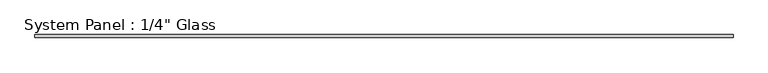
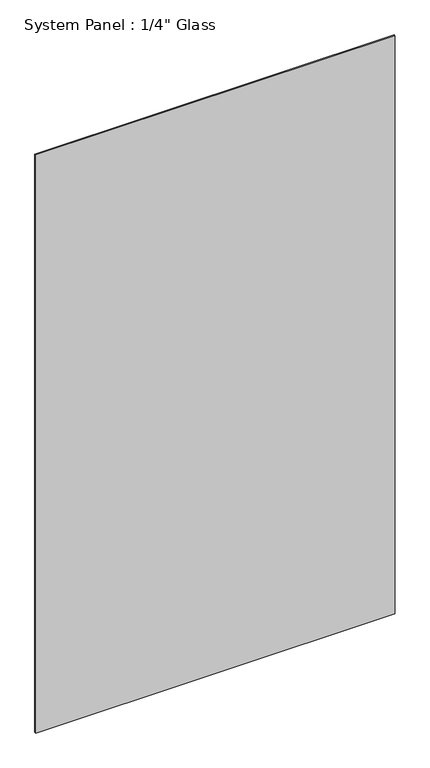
"""IFC4 building model written with IfcOpenShell, lengths in millimetres: plate geometry."""

from ifc_helpers import new_model, si_unit, origin, origin_with_axes, place, context, project, spatial, polyline, outline, extrude, source, transform, mapped, element, save


def plate_50b9cd61(model_context):
    return source(origin(), model_context, "Body", "SweptSolid", [
        extrude(outline(polyline([(732.3663221, -3.175), (-732.3663221, -3.175), (-732.3663221, 3.175), (732.3663221, 3.175), (732.3663221, -3.175)])), origin_with_axes(), (0.0, 0.0, 1.0), 2489.2),
    ])


if __name__ == "__main__":
    model = new_model("IFC4")
    model_context = context("Model", 3, world=origin())
    ifc_project = project(units=[si_unit("LENGTHUNIT", "METRE", prefix="MILLI")], contexts=[model_context])
    site = spatial("IfcSite", under=ifc_project)
    building = spatial("IfcBuilding", under=site)
    placement = place(None, origin())
    plate_shape = plate_50b9cd61(model_context)
    element("IfcPlate", 1, ObjectType="System Panel : 1/4\" Glass", at=placement, inside=building, context=model_context, shape_type="MappedRepresentation", body=[
        mapped(plate_shape, transform((0.0, 0.0, 0.0), x_axis=(1.0, 0.0, 0.0), y_axis=(0.0, 1.0, 0.0), z_axis=(0.0, 0.0, 1.0))),
    ])
    save(model, "model.ifc")
